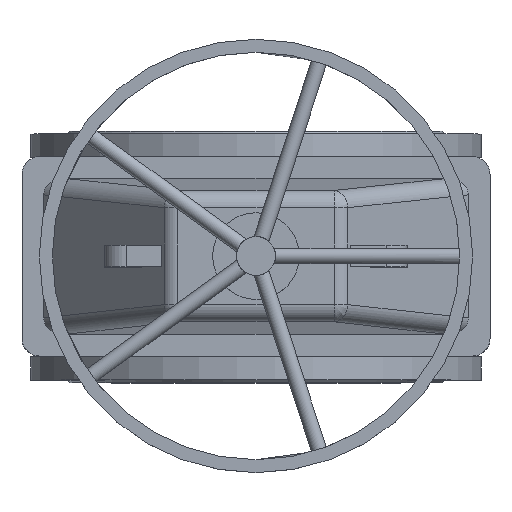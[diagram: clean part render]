
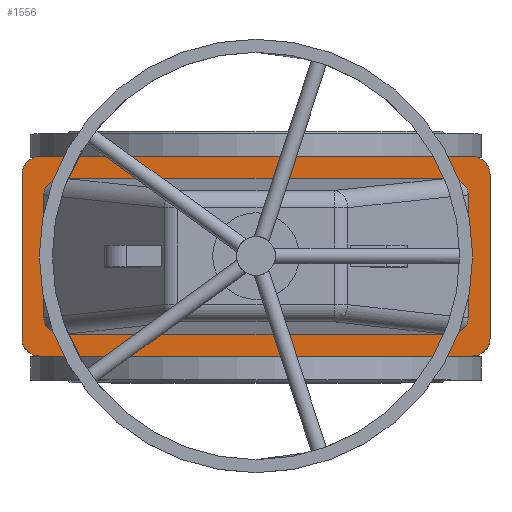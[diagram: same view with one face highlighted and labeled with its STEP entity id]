
A CAD part, top view. The second image highlights one B-rep face of the part: STEP entity #1556.
In plain terms, the highlighted planar face has unit normal (0, 0, 1).
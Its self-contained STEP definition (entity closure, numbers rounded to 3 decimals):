
#1556=ADVANCED_FACE('',(#4014,#4016),#4018,.T.);
#4014=FACE_BOUND('',#4015,.T.);
#4015=EDGE_LOOP('',(#5445,#5446,#5447,#5448,#5449,#5450,#5451,#5452));
#4016=FACE_BOUND('',#4017,.T.);
#4017=EDGE_LOOP('',(#5453,#5454,#5455,#5456,#5457,#5458,#5459,#5460));
#4018=PLANE('',#4019);
#4019=AXIS2_PLACEMENT_3D('',#4020,#4021,#4022);
#4020=CARTESIAN_POINT('',(0.,0.,496.));
#4021=DIRECTION('',(0.,-0.,1.));
#4022=DIRECTION('',(0.,1.,0.));
#5445=ORIENTED_EDGE('',*,*,#6008,.F.);
#5446=ORIENTED_EDGE('',*,*,#6021,.T.);
#5447=ORIENTED_EDGE('',*,*,#6020,.F.);
#5448=ORIENTED_EDGE('',*,*,#6018,.T.);
#5449=ORIENTED_EDGE('',*,*,#6016,.F.);
#5450=ORIENTED_EDGE('',*,*,#6014,.T.);
#5451=ORIENTED_EDGE('',*,*,#6012,.F.);
#5452=ORIENTED_EDGE('',*,*,#6009,.T.);
#5453=ORIENTED_EDGE('',*,*,#6022,.F.);
#5454=ORIENTED_EDGE('',*,*,#6023,.F.);
#5455=ORIENTED_EDGE('',*,*,#6024,.F.);
#5456=ORIENTED_EDGE('',*,*,#6025,.F.);
#5457=ORIENTED_EDGE('',*,*,#6026,.F.);
#5458=ORIENTED_EDGE('',*,*,#6027,.F.);
#5459=ORIENTED_EDGE('',*,*,#6028,.F.);
#5460=ORIENTED_EDGE('',*,*,#6029,.F.);
#6008=EDGE_CURVE('',#6757,#6755,#6759,.F.);
#6009=EDGE_CURVE('',#6760,#6755,#6761,.T.);
#6012=EDGE_CURVE('',#6760,#6763,#6765,.F.);
#6014=EDGE_CURVE('',#6766,#6763,#6768,.T.);
#6016=EDGE_CURVE('',#6766,#6769,#6771,.F.);
#6018=EDGE_CURVE('',#6772,#6769,#6774,.T.);
#6020=EDGE_CURVE('',#6772,#6775,#6777,.F.);
#6021=EDGE_CURVE('',#6757,#6775,#6778,.T.);
#6022=EDGE_CURVE('',#6779,#6780,#6781,.F.);
#6023=EDGE_CURVE('',#6782,#6779,#6783,.T.);
#6024=EDGE_CURVE('',#6784,#6782,#6785,.T.);
#6025=EDGE_CURVE('',#6786,#6784,#6787,.T.);
#6026=EDGE_CURVE('',#6788,#6786,#6789,.F.);
#6027=EDGE_CURVE('',#6790,#6788,#6791,.T.);
#6028=EDGE_CURVE('',#6792,#6790,#6793,.T.);
#6029=EDGE_CURVE('',#6780,#6792,#6794,.T.);
#6755=VERTEX_POINT('',#8988);
#6757=VERTEX_POINT('',#8992);
#6759=CIRCLE('',#8996,20.);
#6760=VERTEX_POINT('',#9000);
#6761=LINE('',#9001,#9002);
#6763=VERTEX_POINT('',#9007);
#6765=CIRCLE('',#9011,20.);
#6766=VERTEX_POINT('',#9015);
#6768=LINE('',#9019,#9020);
#6769=VERTEX_POINT('',#9022);
#6771=CIRCLE('',#9026,20.);
#6772=VERTEX_POINT('',#9030);
#6774=LINE('',#9034,#9035);
#6775=VERTEX_POINT('',#9037);
#6777=CIRCLE('',#9041,20.);
#6778=LINE('',#9045,#9046);
#6779=VERTEX_POINT('',#9048);
#6780=VERTEX_POINT('',#9049);
#6781=(BOUNDED_CURVE()B_SPLINE_CURVE(3,
(#9050,#9051,#9052,#9053),
.UNSPECIFIED.,.F.,.F.)B_SPLINE_CURVE_WITH_KNOTS((4,4),
(0.,1.),
.UNSPECIFIED.)CURVE()GEOMETRIC_REPRESENTATION_ITEM()RATIONAL_B_SPLINE_CURVE((1.,
0.817,0.817,1.))REPRESENTATION_ITEM(''));
#6782=VERTEX_POINT('',#9054);
#6783=LINE('',#9055,#9056);
#6784=VERTEX_POINT('',#9058);
#6785=(BOUNDED_CURVE()B_SPLINE_CURVE(3,
(#9059,#9060,#9061,#9062),
.UNSPECIFIED.,.F.,.F.)B_SPLINE_CURVE_WITH_KNOTS((4,4),
(0.,1.),
.UNSPECIFIED.)CURVE()GEOMETRIC_REPRESENTATION_ITEM()RATIONAL_B_SPLINE_CURVE((1.,
0.817,0.817,1.))REPRESENTATION_ITEM(''));
#6786=VERTEX_POINT('',#9063);
#6787=LINE('',#9064,#9065);
#6788=VERTEX_POINT('',#9067);
#6789=(BOUNDED_CURVE()B_SPLINE_CURVE(3,
(#9068,#9069,#9070,#9071),
.UNSPECIFIED.,.F.,.F.)B_SPLINE_CURVE_WITH_KNOTS((4,4),
(0.,1.),
.UNSPECIFIED.)CURVE()GEOMETRIC_REPRESENTATION_ITEM()RATIONAL_B_SPLINE_CURVE((1.,
0.817,0.817,1.))REPRESENTATION_ITEM(''));
#6790=VERTEX_POINT('',#9072);
#6791=LINE('',#9073,#9074);
#6792=VERTEX_POINT('',#9076);
#6793=(BOUNDED_CURVE()B_SPLINE_CURVE(3,
(#9077,#9078,#9079,#9080),
.UNSPECIFIED.,.F.,.F.)B_SPLINE_CURVE_WITH_KNOTS((4,4),
(0.,1.),
.UNSPECIFIED.)CURVE()GEOMETRIC_REPRESENTATION_ITEM()RATIONAL_B_SPLINE_CURVE((1.,
0.817,0.817,1.))REPRESENTATION_ITEM(''));
#6794=LINE('',#9081,#9082);
#8988=CARTESIAN_POINT('',(-270.,-95.,496.));
#8992=CARTESIAN_POINT('',(-250.,-115.,496.));
#8996=AXIS2_PLACEMENT_3D('',#8997,#8998,#8999);
#8997=CARTESIAN_POINT('',(-250.,-95.,496.));
#8998=DIRECTION('',(0.,-0.,1.));
#8999=DIRECTION('',(-1.,0.,0.));
#9000=CARTESIAN_POINT('',(-270.,95.,496.));
#9001=CARTESIAN_POINT('',(-270.,95.,496.));
#9002=VECTOR('',#9003,1.);
#9003=DIRECTION('',(0.,-1.,0.));
#9007=CARTESIAN_POINT('',(-250.,115.,496.));
#9011=AXIS2_PLACEMENT_3D('',#9012,#9013,#9014);
#9012=CARTESIAN_POINT('',(-250.,95.,496.));
#9013=DIRECTION('',(0.,-0.,1.));
#9014=DIRECTION('',(0.,1.,0.));
#9015=CARTESIAN_POINT('',(250.,115.,496.));
#9019=CARTESIAN_POINT('',(250.,115.,496.));
#9020=VECTOR('',#9021,1.);
#9021=DIRECTION('',(-1.,0.,0.));
#9022=CARTESIAN_POINT('',(270.,95.,496.));
#9026=AXIS2_PLACEMENT_3D('',#9027,#9028,#9029);
#9027=CARTESIAN_POINT('',(250.,95.,496.));
#9028=DIRECTION('',(0.,-0.,1.));
#9029=DIRECTION('',(1.,0.,0.));
#9030=CARTESIAN_POINT('',(270.,-95.,496.));
#9034=CARTESIAN_POINT('',(270.,-95.,496.));
#9035=VECTOR('',#9036,1.);
#9036=DIRECTION('',(0.,1.,0.));
#9037=CARTESIAN_POINT('',(250.,-115.,496.));
#9041=AXIS2_PLACEMENT_3D('',#9042,#9043,#9044);
#9042=CARTESIAN_POINT('',(250.,-95.,496.));
#9043=DIRECTION('',(0.,-0.,1.));
#9044=DIRECTION('',(0.,-1.,0.));
#9045=CARTESIAN_POINT('',(-250.,-115.,496.));
#9046=VECTOR('',#9047,1.);
#9047=DIRECTION('',(1.,0.,0.));
#9048=CARTESIAN_POINT('',(-245.,-71.021,496.));
#9049=CARTESIAN_POINT('',(-220.722,-90.,496.));
#9050=CARTESIAN_POINT('',(-220.722,-90.,496.));
#9051=CARTESIAN_POINT('',(-235.1,-90.,496.));
#9052=CARTESIAN_POINT('',(-245.,-82.261,496.));
#9053=CARTESIAN_POINT('',(-245.,-71.021,496.));
#9054=CARTESIAN_POINT('',(-245.,71.021,496.));
#9055=CARTESIAN_POINT('',(-245.,71.021,496.));
#9056=VECTOR('',#9057,1.);
#9057=DIRECTION('',(0.,-1.,0.));
#9058=CARTESIAN_POINT('',(-220.722,90.,496.));
#9059=CARTESIAN_POINT('',(-220.722,90.,496.));
#9060=CARTESIAN_POINT('',(-235.1,90.,496.));
#9061=CARTESIAN_POINT('',(-245.,82.261,496.));
#9062=CARTESIAN_POINT('',(-245.,71.021,496.));
#9063=CARTESIAN_POINT('',(220.722,90.,496.));
#9064=CARTESIAN_POINT('',(220.722,90.,496.));
#9065=VECTOR('',#9066,1.);
#9066=DIRECTION('',(-1.,0.,0.));
#9067=CARTESIAN_POINT('',(245.,71.021,496.));
#9068=CARTESIAN_POINT('',(220.722,90.,496.));
#9069=CARTESIAN_POINT('',(235.1,90.,496.));
#9070=CARTESIAN_POINT('',(245.,82.261,496.));
#9071=CARTESIAN_POINT('',(245.,71.021,496.));
#9072=CARTESIAN_POINT('',(245.,-71.021,496.));
#9073=CARTESIAN_POINT('',(245.,-71.021,496.));
#9074=VECTOR('',#9075,1.);
#9075=DIRECTION('',(0.,1.,0.));
#9076=CARTESIAN_POINT('',(220.722,-90.,496.));
#9077=CARTESIAN_POINT('',(220.722,-90.,496.));
#9078=CARTESIAN_POINT('',(235.1,-90.,496.));
#9079=CARTESIAN_POINT('',(245.,-82.261,496.));
#9080=CARTESIAN_POINT('',(245.,-71.021,496.));
#9081=CARTESIAN_POINT('',(-220.722,-90.,496.));
#9082=VECTOR('',#9083,1.);
#9083=DIRECTION('',(1.,0.,0.));
